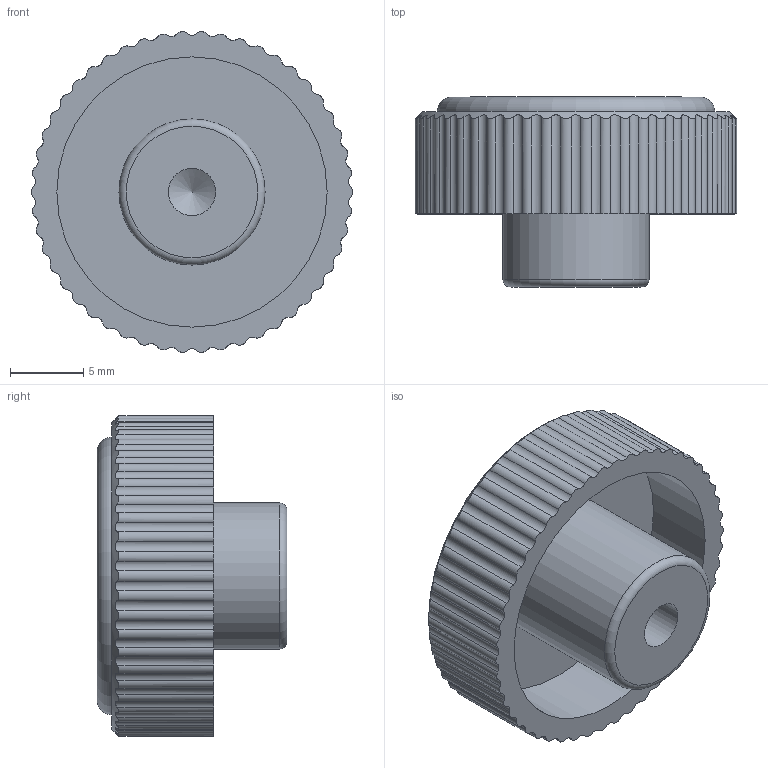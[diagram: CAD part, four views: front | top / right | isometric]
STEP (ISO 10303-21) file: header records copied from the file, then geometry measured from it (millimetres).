
FILE_DESCRIPTION(/* description */ (''),/* implementation_level */ '2;1');
FILE_NAME(/* name */ '\\SYNOLOGYNAS\web\db2\GKN_M\GKN-M4\도면\GKN-M4.stp',/* time_stamp */ '2024-05-01T13:28:27+09:00',/* author */ ('user'),/* organization */ (''),/* preprocessor_version */ 'ST-DEVELOPER v15.6',/* originating_system */ 'Autodesk Inventor 2015',/* authorisation */ '');
FILE_SCHEMA (('AUTOMOTIVE_DESIGN { 1 0 10303 214 3 1 1 }'));
Length unit declared in the file: millimetre
Products named in the file (1): GKN-M4
Bounding box: 22 x 13 x 21.96 mm (x, y, z)
Volume: 2171.2 mm3; surface area: 1995.3 mm2
Topology: 1 solids, 1 shells, 116 faces, 375 edges, 266 vertices
Faces by surface type: cylinder 103, plane 7, cone 4, torus 2
Full cylindrical faces by diameter (mm): 3.242 x1, 10 x1, 18.5 x1
Entity records: 5228 total; most frequent: CARTESIAN_POINT 2095, ORIENTED_EDGE 728, DIRECTION 562, EDGE_CURVE 364, VERTEX_POINT 264, AXIS2_PLACEMENT_3D 231, B_SPLINE_CURVE_WITH_KNOTS 150, EDGE_LOOP 130
